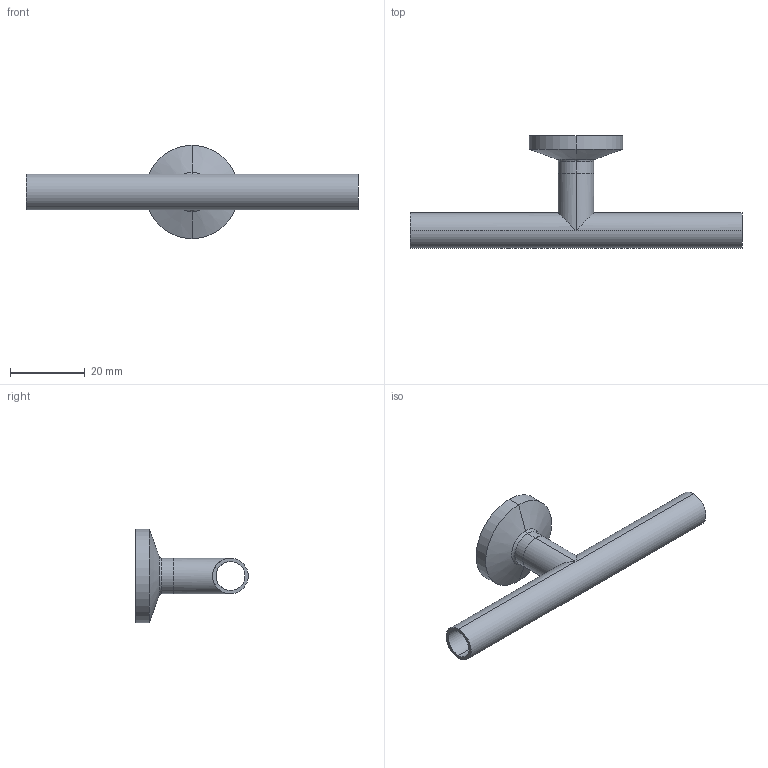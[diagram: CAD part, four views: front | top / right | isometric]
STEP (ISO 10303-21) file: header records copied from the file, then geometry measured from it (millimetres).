
FILE_DESCRIPTION (( 'STEP AP214' ), '1' );
FILE_NAME ('TE7WWCS6L.375-...STEP', '2016-05-24T12:03:20', ( 'eran' ), ( '' ), 'SwSTEP 2.0', 'SolidWorks 2016', '' );
FILE_SCHEMA (( 'AUTOMOTIVE_DESIGN' ));
Length unit declared in the file: millimetre
Products named in the file (1): TE7WWCS6L.375-..
Bounding box: 89 x 30.16 x 24.99 mm (x, y, z)
Volume: 4269.6 mm3; surface area: 7107.4 mm2
Topology: 2 solids, 2 shells, 36 faces, 74 edges, 42 vertices
Faces by surface type: cylinder 18, bspline 8, plane 6, cone 4
Entity records: 1087 total; most frequent: CARTESIAN_POINT 297, DIRECTION 166, ORIENTED_EDGE 148, EDGE_CURVE 74, AXIS2_PLACEMENT_3D 71, VERTEX_POINT 42, EDGE_LOOP 42, CIRCLE 42
